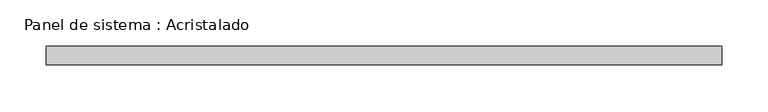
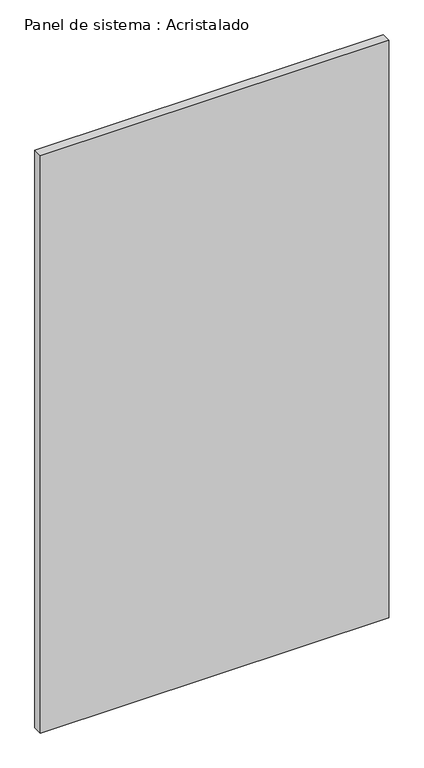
"""IFC4 building model written with IfcOpenShell, lengths in millimetres: plate geometry, Panel de sistema : Acristalado."""

from ifc_helpers import new_model, si_unit, origin, origin_with_axes, place, context, project, spatial, polyline, outline, extrude, source, transform, mapped, element, save


def panel_de_sistema_acristalado_d56444c0(model_context):
    return source(origin(), model_context, "Body", "SweptSolid", [
        extrude(outline(polyline([(363.607537, -10.0), (-363.607537, -10.0), (-363.607537, 10.0), (363.607537, 10.0), (363.607537, -10.0)])), origin_with_axes(), (0.0, 0.0, 1.0), 1275.0),
    ])


if __name__ == "__main__":
    model = new_model("IFC4")
    model_context = context("Model", 3, world=origin())
    ifc_project = project(units=[si_unit("LENGTHUNIT", "METRE", prefix="MILLI")], contexts=[model_context])
    site = spatial("IfcSite", under=ifc_project)
    building = spatial("IfcBuilding", under=site)
    placement = place(None, origin())
    panel_de_sistema_acristalado_shape = panel_de_sistema_acristalado_d56444c0(model_context)
    element("IfcPlate", 1, ObjectType="Panel de sistema : Acristalado", at=placement, inside=building, context=model_context, shape_type="MappedRepresentation", body=[
        mapped(panel_de_sistema_acristalado_shape, transform((0.0, 0.0, 0.0), x_axis=(1.0, 0.0, 0.0), y_axis=(0.0, 1.0, 0.0), z_axis=(0.0, 0.0, 1.0))),
    ])
    save(model, "model.ifc")
